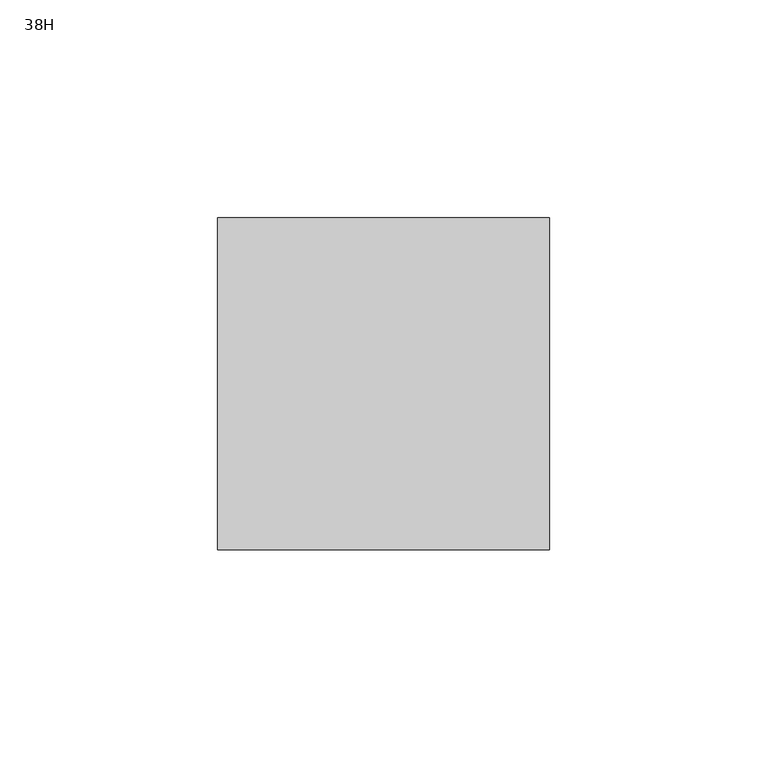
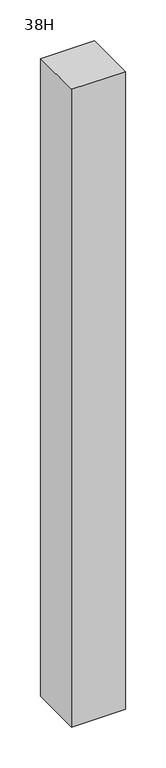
"""IFC4 building model written with IfcOpenShell, lengths in millimetres: furniture geometry, Steelcase - Montage - Junction - I - Same-Height : 38H."""

from ifc_helpers import new_model, si_unit, frame, origin, place, context, project, spatial, polyline, outline, extrude, source, transform, mapped, element, save


def furniture_38h_da254d0d(model_context):
    return source(origin(), model_context, "Body", "SweptSolid", [
        extrude(outline(polyline([(533.4, 38.1000015), (533.4, -38.1000015), (457.2, -38.1000015), (457.2, 38.1000015), (533.4, 38.1000015)])), frame((0.0, 0.0, 3.9624), z_axis=(0.0, 0.0, 1.0), x_axis=(1.0, 0.0, 0.0)), (0.0, 0.0, 1.0), 954.8876),
    ])


if __name__ == "__main__":
    model = new_model("IFC4")
    model_context = context("Model", 3, world=origin())
    ifc_project = project(units=[si_unit("LENGTHUNIT", "METRE", prefix="MILLI")], contexts=[model_context])
    site = spatial("IfcSite", under=ifc_project)
    building = spatial("IfcBuilding", under=site)
    placement = place(None, origin())
    furniture_38h_shape = furniture_38h_da254d0d(model_context)
    element("IfcFurniture", 1, ObjectType="Steelcase - Montage - Junction - I - Same-Height : 38H", at=placement, inside=building, context=model_context, shape_type="MappedRepresentation", body=[
        mapped(furniture_38h_shape, transform((0.0, 0.0, 0.0), x_axis=(1.0, 0.0, 0.0), y_axis=(0.0, 1.0, 0.0), z_axis=(0.0, 0.0, 1.0))),
    ])
    save(model, "model.ifc")
